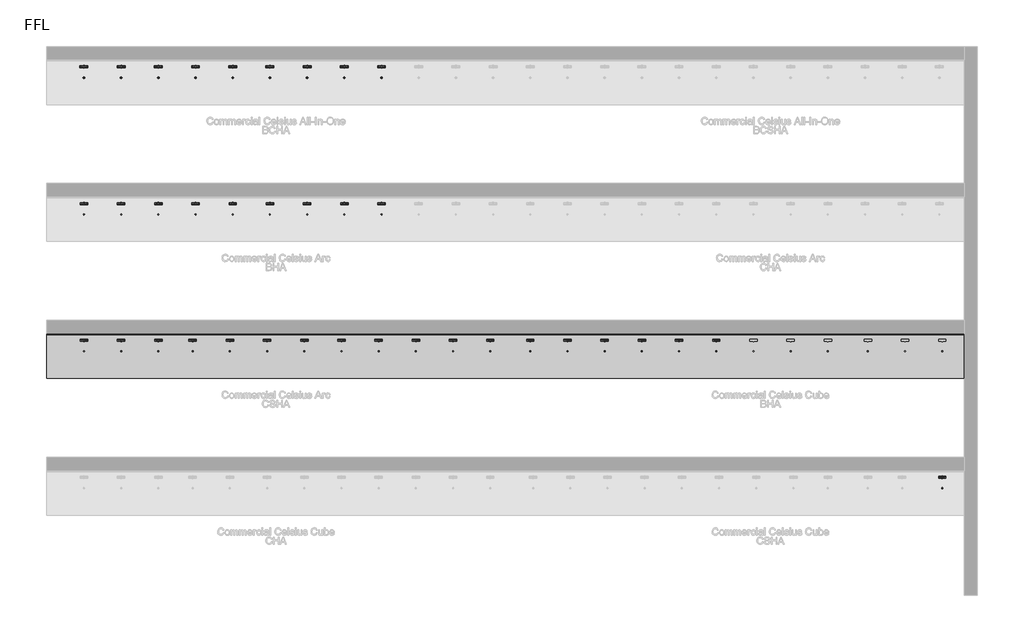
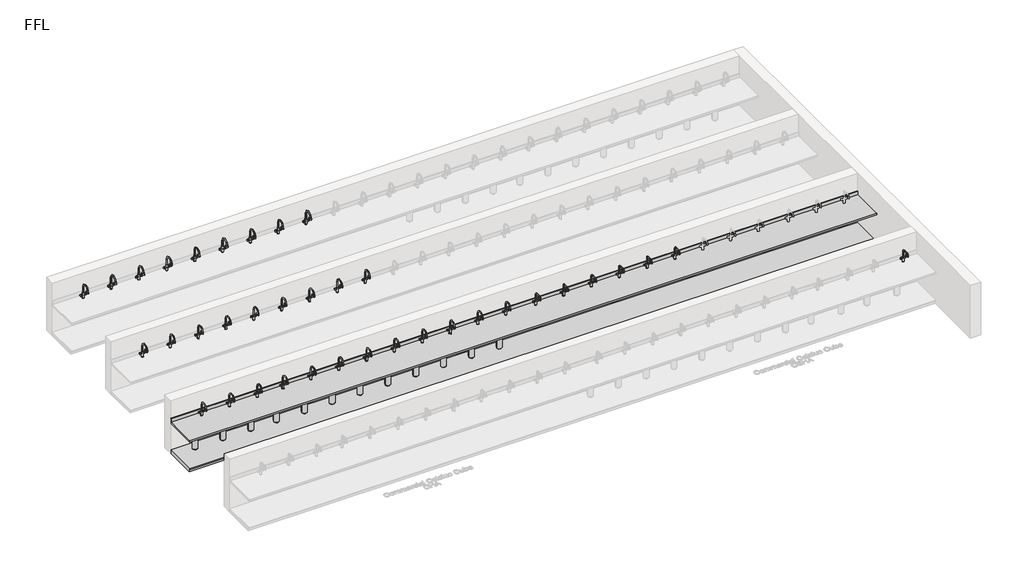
# One storey, part 2 of 10: 65 flow terminals, 2 furniture elements.
"""IFC4 building model written with IfcOpenShell, lengths in millimetres."""

from ifc_helpers import new_model, si_unit, frame, origin, place, context, project, spatial, polyline, circle_curve, transform, mapped, element, save
from ifc_brep_helpers import plane_surface, revolved_surface, advanced_brep
from components import flow_terminal_1fd3c137, bright_chrome_ca6152f3, bright_chrome_d5fbbf34, bright_chrome_d1e259f6, co2_gas_cylinder_20234e14, generic_plinth_900mm_f287d53f

model = new_model("IFC4")

# Units and contexts
model_context = context("Model", 3, world=origin())
ifc_project = project(units=[si_unit("LENGTHUNIT", "METRE", prefix="MILLI")], contexts=[model_context])

# Site, building, storey
site = spatial("IfcSite", under=ifc_project)
building = spatial("IfcBuilding", under=site)
storey = spatial("IfcBuildingStorey", under=building, Name="FFL", Elevation=0.0)

# Flow terminals
placement = place(None, origin())
flow_terminal_shape = flow_terminal_1fd3c137(model_context)
element("IfcFlowTerminal", 1, ObjectType="z_PlumFixt_Zenith_Booster : Booster", at=placement, inside=storey, context=model_context, shape_type="MappedRepresentation", body=[
    mapped(flow_terminal_shape, transform((-1716.7352929, 5140.2393304, 498.0), x_axis=(1.0, 0.0, 0.0), y_axis=(0.0, 1.0, 0.0), z_axis=(0.0, 0.0, 1.0))),
])
element("IfcFlowTerminal", 2, ObjectType="z_PlumFixt_Zenith_Booster : Booster", at=placement, inside=storey, context=model_context, shape_type="MappedRepresentation", body=[
    mapped(flow_terminal_shape, transform((-966.7352929, 5140.2393304, 498.0), x_axis=(1.0, 0.0, 0.0), y_axis=(0.0, 1.0, 0.0), z_axis=(0.0, 0.0, 1.0))),
])
element("IfcFlowTerminal", 3, ObjectType="z_PlumFixt_Zenith_Booster : Booster", at=placement, inside=storey, context=model_context, shape_type="MappedRepresentation", body=[
    mapped(flow_terminal_shape, transform((-216.7352929, 5140.2393304, 498.0), x_axis=(1.0, 0.0, 0.0), y_axis=(0.0, 1.0, 0.0), z_axis=(0.0, 0.0, 1.0))),
])
element("IfcFlowTerminal", 4, ObjectType="z_PlumFixt_Zenith_Booster : Booster", at=placement, inside=storey, context=model_context, shape_type="MappedRepresentation", body=[
    mapped(flow_terminal_shape, transform((-6216.7352929, 2380.2393304, 498.0), x_axis=(1.0, 0.0, 0.0), y_axis=(0.0, 1.0, 0.0), z_axis=(0.0, 0.0, 1.0))),
])
element("IfcFlowTerminal", 5, ObjectType="z_PlumFixt_Zenith_Booster : Booster", at=placement, inside=storey, context=model_context, shape_type="MappedRepresentation", body=[
    mapped(flow_terminal_shape, transform((-5466.7352929, 2380.2393304, 498.0), x_axis=(1.0, 0.0, 0.0), y_axis=(0.0, 1.0, 0.0), z_axis=(0.0, 0.0, 1.0))),
])
element("IfcFlowTerminal", 6, ObjectType="z_PlumFixt_Zenith_Booster : Booster", at=placement, inside=storey, context=model_context, shape_type="MappedRepresentation", body=[
    mapped(flow_terminal_shape, transform((-4716.7352929, 2380.2393304, 498.0), x_axis=(1.0, 0.0, 0.0), y_axis=(0.0, 1.0, 0.0), z_axis=(0.0, 0.0, 1.0))),
])
element("IfcFlowTerminal", 7, ObjectType="z_PlumFixt_Zenith_Booster : Booster", at=placement, inside=storey, context=model_context, shape_type="MappedRepresentation", body=[
    mapped(flow_terminal_shape, transform((-4023.7352929, 2380.2393304, 498.0), x_axis=(1.0, 0.0, 0.0), y_axis=(0.0, 1.0, 0.0), z_axis=(0.0, 0.0, 1.0))),
])
element("IfcFlowTerminal", 8, ObjectType="z_PlumFixt_Zenith_Booster : Booster", at=placement, inside=storey, context=model_context, shape_type="MappedRepresentation", body=[
    mapped(flow_terminal_shape, transform((-3273.7352929, 2380.2393304, 498.0), x_axis=(1.0, 0.0, 0.0), y_axis=(0.0, 1.0, 0.0), z_axis=(0.0, 0.0, 1.0))),
])
element("IfcFlowTerminal", 9, ObjectType="z_PlumFixt_Zenith_Booster : Booster", at=placement, inside=storey, context=model_context, shape_type="MappedRepresentation", body=[
    mapped(flow_terminal_shape, transform((-2523.7352929, 2380.2393304, 498.0), x_axis=(1.0, 0.0, 0.0), y_axis=(0.0, 1.0, 0.0), z_axis=(0.0, 0.0, 1.0))),
])
element("IfcFlowTerminal", 10, ObjectType="z_PlumFixt_Zenith_Booster : Booster", at=placement, inside=storey, context=model_context, shape_type="MappedRepresentation", body=[
    mapped(flow_terminal_shape, transform((-1773.7352929, 2380.2393304, 498.0), x_axis=(1.0, 0.0, 0.0), y_axis=(0.0, 1.0, 0.0), z_axis=(0.0, 0.0, 1.0))),
])
element("IfcFlowTerminal", 11, ObjectType="z_PlumFixt_Zenith_Booster : Booster", at=placement, inside=storey, context=model_context, shape_type="MappedRepresentation", body=[
    mapped(flow_terminal_shape, transform((-1023.7352929, 2380.2393304, 498.0), x_axis=(1.0, 0.0, 0.0), y_axis=(0.0, 1.0, 0.0), z_axis=(0.0, 0.0, 1.0))),
])
element("IfcFlowTerminal", 12, ObjectType="z_PlumFixt_Zenith_Booster : Booster", at=placement, inside=storey, context=model_context, shape_type="MappedRepresentation", body=[
    mapped(flow_terminal_shape, transform((-273.7352929, 2380.2393304, 498.0), x_axis=(1.0, 0.0, 0.0), y_axis=(0.0, 1.0, 0.0), z_axis=(0.0, 0.0, 1.0))),
])
element("IfcFlowTerminal", 13, ObjectType="z_PlumFixt_Zenith_Booster : Booster", at=placement, inside=storey, context=model_context, shape_type="MappedRepresentation", body=[
    mapped(flow_terminal_shape, transform((476.2647071, 2380.2393304, 498.0), x_axis=(1.0, 0.0, 0.0), y_axis=(0.0, 1.0, 0.0), z_axis=(0.0, 0.0, 1.0))),
])
element("IfcFlowTerminal", 14, ObjectType="z_PlumFixt_Zenith_Booster : Booster", at=placement, inside=storey, context=model_context, shape_type="MappedRepresentation", body=[
    mapped(flow_terminal_shape, transform((1226.2647071, 2380.2393304, 498.0), x_axis=(1.0, 0.0, 0.0), y_axis=(0.0, 1.0, 0.0), z_axis=(0.0, 0.0, 1.0))),
])
element("IfcFlowTerminal", 15, ObjectType="z_PlumFixt_Zenith_Booster : Booster", at=placement, inside=storey, context=model_context, shape_type="MappedRepresentation", body=[
    mapped(flow_terminal_shape, transform((1976.2647071, 2380.2393304, 498.0), x_axis=(1.0, 0.0, 0.0), y_axis=(0.0, 1.0, 0.0), z_axis=(0.0, 0.0, 1.0))),
])
element("IfcFlowTerminal", 16, ObjectType="z_PlumFixt_Zenith_Booster : Booster", at=placement, inside=storey, context=model_context, shape_type="MappedRepresentation", body=[
    mapped(flow_terminal_shape, transform((7282.2647071, 2380.2393304, 498.0), x_axis=(1.0, 0.0, 0.0), y_axis=(0.0, 1.0, 0.0), z_axis=(0.0, 0.0, 1.0))),
])
bright_chrome_shape = bright_chrome_ca6152f3(model_context)
element("IfcFlowTerminal", 17, ObjectType="z_PlumFixt_Zenith_Celsius Arc : Bright Chrome", at=placement, inside=storey, context=model_context, shape_type="MappedRepresentation", body=[
    mapped(bright_chrome_shape, transform((-6216.7352929, 4864.4893304, 900.0), x_axis=(1.0, 0.0, 0.0), y_axis=(0.0, 1.0, 0.0), z_axis=(0.0, 0.0, 1.0))),
])
element("IfcFlowTerminal", 18, ObjectType="z_PlumFixt_Zenith_Celsius Arc : Bright Chrome", at=placement, inside=storey, context=model_context, shape_type="MappedRepresentation", body=[
    mapped(bright_chrome_shape, transform((-6216.7352929, 2104.4893304, 900.0), x_axis=(1.0, 0.0, 0.0), y_axis=(0.0, 1.0, 0.0), z_axis=(0.0, 0.0, 1.0))),
])
bright_chrome_2_shape = bright_chrome_d5fbbf34(model_context)
element("IfcFlowTerminal", 19, ObjectType="z_PlumFixt_Zenith_Celsius Cube : Bright Chrome", at=placement, inside=storey, context=model_context, shape_type="MappedRepresentation", body=[
    mapped(bright_chrome_2_shape, transform((2782.7647071, 2104.4893304, 900.0), x_axis=(1.0, 0.0, 0.0), y_axis=(0.0, 1.0, 0.0), z_axis=(0.0, 0.0, 1.0))),
])
element("IfcFlowTerminal", 20, ObjectType="z_PlumFixt_Zenith_Celsius Cube : Bright Chrome", at=placement, inside=storey, context=model_context, shape_type="MappedRepresentation", body=[
    mapped(bright_chrome_2_shape, transform((11089.2647071, -655.5106696, 900.0), x_axis=(1.0, 0.0, 0.0), y_axis=(0.0, 1.0, 0.0), z_axis=(0.0, 0.0, 1.0))),
])
bright_chrome_3_shape = bright_chrome_d1e259f6(model_context)
element("IfcFlowTerminal", 21, ObjectType="z_PlumFixt_Zenith_Celsius All-In-One : Bright Chrome", at=placement, inside=storey, context=model_context, shape_type="MappedRepresentation", body=[
    mapped(bright_chrome_3_shape, transform((-6216.7352929, 7637.5393304, 900.0), x_axis=(1.0, 0.0, 0.0), y_axis=(0.0, 1.0, 0.0), z_axis=(0.0, 0.0, 1.0))),
])
element("IfcFlowTerminal", 22, ObjectType="z_PlumFixt_Zenith_Celsius Arc : Brushed Chrome", at=placement, inside=storey, context=model_context, shape_type="MappedRepresentation", body=[
    mapped(bright_chrome_shape, transform((-5466.7352929, 4864.4893304, 900.0), x_axis=(1.0, 0.0, 0.0), y_axis=(0.0, 1.0, 0.0), z_axis=(0.0, 0.0, 1.0))),
])
element("IfcFlowTerminal", 23, ObjectType="z_PlumFixt_Zenith_Celsius Arc : Brushed Chrome", at=placement, inside=storey, context=model_context, shape_type="MappedRepresentation", body=[
    mapped(bright_chrome_shape, transform((-5466.7352929, 2104.4893304, 900.0), x_axis=(1.0, 0.0, 0.0), y_axis=(0.0, 1.0, 0.0), z_axis=(0.0, 0.0, 1.0))),
])
element("IfcFlowTerminal", 24, ObjectType="z_PlumFixt_Zenith_Celsius Cube : Brushed Chrome", at=placement, inside=storey, context=model_context, shape_type="MappedRepresentation", body=[
    mapped(bright_chrome_2_shape, transform((3532.7647071, 2104.4893304, 900.0), x_axis=(1.0, 0.0, 0.0), y_axis=(0.0, 1.0, 0.0), z_axis=(0.0, 0.0, 1.0))),
])
element("IfcFlowTerminal", 25, ObjectType="z_PlumFixt_Zenith_Celsius All-In-One : Brushed Chrome", at=placement, inside=storey, context=model_context, shape_type="MappedRepresentation", body=[
    mapped(bright_chrome_3_shape, transform((-5466.7352929, 7637.5393304, 900.0), x_axis=(1.0, 0.0, 0.0), y_axis=(0.0, 1.0, 0.0), z_axis=(0.0, 0.0, 1.0))),
])
element("IfcFlowTerminal", 26, ObjectType="z_PlumFixt_Zenith_Celsius Arc : Brushed Gold", at=placement, inside=storey, context=model_context, shape_type="MappedRepresentation", body=[
    mapped(bright_chrome_shape, transform((-4716.7352929, 4864.4893304, 900.0), x_axis=(1.0, 0.0, 0.0), y_axis=(0.0, 1.0, 0.0), z_axis=(0.0, 0.0, 1.0))),
])
element("IfcFlowTerminal", 27, ObjectType="z_PlumFixt_Zenith_Celsius Arc : Brushed Gold", at=placement, inside=storey, context=model_context, shape_type="MappedRepresentation", body=[
    mapped(bright_chrome_shape, transform((-4716.7352929, 2104.4893304, 900.0), x_axis=(1.0, 0.0, 0.0), y_axis=(0.0, 1.0, 0.0), z_axis=(0.0, 0.0, 1.0))),
])
element("IfcFlowTerminal", 28, ObjectType="z_PlumFixt_Zenith_Celsius Cube : Brushed Gold", at=placement, inside=storey, context=model_context, shape_type="MappedRepresentation", body=[
    mapped(bright_chrome_2_shape, transform((4282.7647071, 2104.4893304, 900.0), x_axis=(1.0, 0.0, 0.0), y_axis=(0.0, 1.0, 0.0), z_axis=(0.0, 0.0, 1.0))),
])
element("IfcFlowTerminal", 29, ObjectType="z_PlumFixt_Zenith_Celsius All-In-One : Brushed Gold", at=placement, inside=storey, context=model_context, shape_type="MappedRepresentation", body=[
    mapped(bright_chrome_3_shape, transform((-4716.7352929, 7637.5393304, 900.0), x_axis=(1.0, 0.0, 0.0), y_axis=(0.0, 1.0, 0.0), z_axis=(0.0, 0.0, 1.0))),
])
element("IfcFlowTerminal", 30, ObjectType="z_PlumFixt_Zenith_Celsius Arc : Brushed Nickel", at=placement, inside=storey, context=model_context, shape_type="MappedRepresentation", body=[
    mapped(bright_chrome_shape, transform((-3966.7352929, 4864.4893304, 900.0), x_axis=(1.0, 0.0, 0.0), y_axis=(0.0, 1.0, 0.0), z_axis=(0.0, 0.0, 1.0))),
])
element("IfcFlowTerminal", 31, ObjectType="z_PlumFixt_Zenith_Celsius Arc : Brushed Nickel", at=placement, inside=storey, context=model_context, shape_type="MappedRepresentation", body=[
    mapped(bright_chrome_shape, transform((-4023.7352929, 2104.4893304, 900.0), x_axis=(1.0, 0.0, 0.0), y_axis=(0.0, 1.0, 0.0), z_axis=(0.0, 0.0, 1.0))),
])
element("IfcFlowTerminal", 32, ObjectType="z_PlumFixt_Zenith_Celsius Cube : Brushed Nickel", at=placement, inside=storey, context=model_context, shape_type="MappedRepresentation", body=[
    mapped(bright_chrome_2_shape, transform((5032.7647071, 2104.4893304, 900.0), x_axis=(1.0, 0.0, 0.0), y_axis=(0.0, 1.0, 0.0), z_axis=(0.0, 0.0, 1.0))),
])
element("IfcFlowTerminal", 33, ObjectType="z_PlumFixt_Zenith_Celsius All-In-One : Brushed Nickel", at=placement, inside=storey, context=model_context, shape_type="MappedRepresentation", body=[
    mapped(bright_chrome_3_shape, transform((-3966.7352929, 7637.5393304, 900.0), x_axis=(1.0, 0.0, 0.0), y_axis=(0.0, 1.0, 0.0), z_axis=(0.0, 0.0, 1.0))),
])
element("IfcFlowTerminal", 34, ObjectType="z_PlumFixt_Zenith_Celsius Arc : Brushed Rose Gold", at=placement, inside=storey, context=model_context, shape_type="MappedRepresentation", body=[
    mapped(bright_chrome_shape, transform((-3216.7352929, 4864.4893304, 900.0), x_axis=(1.0, 0.0, 0.0), y_axis=(0.0, 1.0, 0.0), z_axis=(0.0, 0.0, 1.0))),
])
element("IfcFlowTerminal", 35, ObjectType="z_PlumFixt_Zenith_Celsius Arc : Brushed Rose Gold", at=placement, inside=storey, context=model_context, shape_type="MappedRepresentation", body=[
    mapped(bright_chrome_shape, transform((-3273.7352929, 2104.4893304, 900.0), x_axis=(1.0, 0.0, 0.0), y_axis=(0.0, 1.0, 0.0), z_axis=(0.0, 0.0, 1.0))),
])
element("IfcFlowTerminal", 36, ObjectType="z_PlumFixt_Zenith_Celsius Cube : Brushed Rose Gold", at=placement, inside=storey, context=model_context, shape_type="MappedRepresentation", body=[
    mapped(bright_chrome_2_shape, transform((5782.2647071, 2104.4893304, 900.0), x_axis=(1.0, 0.0, 0.0), y_axis=(0.0, 1.0, 0.0), z_axis=(0.0, 0.0, 1.0))),
])
element("IfcFlowTerminal", 37, ObjectType="z_PlumFixt_Zenith_Celsius All-In-One : Brushed Rose Gold", at=placement, inside=storey, context=model_context, shape_type="MappedRepresentation", body=[
    mapped(bright_chrome_3_shape, transform((-3216.7352929, 7637.5393304, 900.0), x_axis=(1.0, 0.0, 0.0), y_axis=(0.0, 1.0, 0.0), z_axis=(0.0, 0.0, 1.0))),
])
co2_gas_cylinder_shape = co2_gas_cylinder_20234e14(model_context)
element("IfcFlowTerminal", 38, ObjectType="z_PlumFixt_Zenith_CO2 Gas Cylinder : CO2 Gas Cylinder", at=placement, inside=storey, context=model_context, shape_type="MappedRepresentation", body=[
    mapped(co2_gas_cylinder_shape, transform((-6454.7352929, 1998.2393304, 100.0), x_axis=(-1.0, 0.0, 0.0), y_axis=(0.0, -1.0, 0.0), z_axis=(0.0, 0.0, 1.0))),
])
element("IfcFlowTerminal", 39, ObjectType="z_PlumFixt_Zenith_CO2 Gas Cylinder : CO2 Gas Cylinder", at=placement, inside=storey, context=model_context, shape_type="MappedRepresentation", body=[
    mapped(co2_gas_cylinder_shape, transform((-5704.7352929, 1998.2393304, 100.0), x_axis=(-1.0, 0.0, 0.0), y_axis=(0.0, -1.0, 0.0), z_axis=(0.0, 0.0, 1.0))),
])
element("IfcFlowTerminal", 40, ObjectType="z_PlumFixt_Zenith_CO2 Gas Cylinder : CO2 Gas Cylinder", at=placement, inside=storey, context=model_context, shape_type="MappedRepresentation", body=[
    mapped(co2_gas_cylinder_shape, transform((-4954.7352929, 1998.2393304, 100.0), x_axis=(-1.0, 0.0, 0.0), y_axis=(0.0, -1.0, 0.0), z_axis=(0.0, 0.0, 1.0))),
])
element("IfcFlowTerminal", 41, ObjectType="z_PlumFixt_Zenith_CO2 Gas Cylinder : CO2 Gas Cylinder", at=placement, inside=storey, context=model_context, shape_type="MappedRepresentation", body=[
    mapped(co2_gas_cylinder_shape, transform((-4261.7352929, 1998.2393304, 100.0), x_axis=(-1.0, 0.0, 0.0), y_axis=(0.0, -1.0, 0.0), z_axis=(0.0, 0.0, 1.0))),
])
element("IfcFlowTerminal", 42, ObjectType="z_PlumFixt_Zenith_CO2 Gas Cylinder : CO2 Gas Cylinder", at=placement, inside=storey, context=model_context, shape_type="MappedRepresentation", body=[
    mapped(co2_gas_cylinder_shape, transform((-3511.7352929, 1998.2393304, 100.0), x_axis=(-1.0, 0.0, 0.0), y_axis=(0.0, -1.0, 0.0), z_axis=(0.0, 0.0, 1.0))),
])
element("IfcFlowTerminal", 43, ObjectType="z_PlumFixt_Zenith_CO2 Gas Cylinder : CO2 Gas Cylinder", at=placement, inside=storey, context=model_context, shape_type="MappedRepresentation", body=[
    mapped(co2_gas_cylinder_shape, transform((-2761.7352929, 1998.2393304, 100.0), x_axis=(-1.0, 0.0, 0.0), y_axis=(0.0, -1.0, 0.0), z_axis=(0.0, 0.0, 1.0))),
])
element("IfcFlowTerminal", 44, ObjectType="z_PlumFixt_Zenith_CO2 Gas Cylinder : CO2 Gas Cylinder", at=placement, inside=storey, context=model_context, shape_type="MappedRepresentation", body=[
    mapped(co2_gas_cylinder_shape, transform((-2011.7352929, 1998.2393304, 100.0), x_axis=(-1.0, 0.0, 0.0), y_axis=(0.0, -1.0, 0.0), z_axis=(0.0, 0.0, 1.0))),
])
element("IfcFlowTerminal", 45, ObjectType="z_PlumFixt_Zenith_CO2 Gas Cylinder : CO2 Gas Cylinder", at=placement, inside=storey, context=model_context, shape_type="MappedRepresentation", body=[
    mapped(co2_gas_cylinder_shape, transform((-1261.7352929, 1998.2393304, 100.0), x_axis=(-1.0, 0.0, 0.0), y_axis=(0.0, -1.0, 0.0), z_axis=(0.0, 0.0, 1.0))),
])
element("IfcFlowTerminal", 46, ObjectType="z_PlumFixt_Zenith_CO2 Gas Cylinder : CO2 Gas Cylinder", at=placement, inside=storey, context=model_context, shape_type="MappedRepresentation", body=[
    mapped(co2_gas_cylinder_shape, transform((-511.7352929, 1998.2393304, 100.0), x_axis=(-1.0, 0.0, 0.0), y_axis=(0.0, -1.0, 0.0), z_axis=(0.0, 0.0, 1.0))),
])
element("IfcFlowTerminal", 47, ObjectType="z_PlumFixt_Zenith_CO2 Gas Cylinder : CO2 Gas Cylinder", at=placement, inside=storey, context=model_context, shape_type="MappedRepresentation", body=[
    mapped(co2_gas_cylinder_shape, transform((238.2647071, 1998.2393304, 100.0), x_axis=(-1.0, 0.0, 0.0), y_axis=(0.0, -1.0, 0.0), z_axis=(0.0, 0.0, 1.0))),
])
element("IfcFlowTerminal", 48, ObjectType="z_PlumFixt_Zenith_CO2 Gas Cylinder : CO2 Gas Cylinder", at=placement, inside=storey, context=model_context, shape_type="MappedRepresentation", body=[
    mapped(co2_gas_cylinder_shape, transform((988.2647071, 1998.2393304, 100.0), x_axis=(-1.0, 0.0, 0.0), y_axis=(0.0, -1.0, 0.0), z_axis=(0.0, 0.0, 1.0))),
])
element("IfcFlowTerminal", 49, ObjectType="z_PlumFixt_Zenith_CO2 Gas Cylinder : CO2 Gas Cylinder", at=placement, inside=storey, context=model_context, shape_type="MappedRepresentation", body=[
    mapped(co2_gas_cylinder_shape, transform((1738.2647071, 1998.2393304, 100.0), x_axis=(-1.0, 0.0, 0.0), y_axis=(0.0, -1.0, 0.0), z_axis=(0.0, 0.0, 1.0))),
])
element("IfcFlowTerminal", 50, ObjectType="z_PlumFixt_Zenith_Celsius Arc : Gloss Black", at=placement, inside=storey, context=model_context, shape_type="MappedRepresentation", body=[
    mapped(bright_chrome_shape, transform((-2466.7352929, 4864.4893304, 900.0), x_axis=(1.0, 0.0, 0.0), y_axis=(0.0, 1.0, 0.0), z_axis=(0.0, 0.0, 1.0))),
])
element("IfcFlowTerminal", 51, ObjectType="z_PlumFixt_Zenith_Celsius Arc : Gloss Black", at=placement, inside=storey, context=model_context, shape_type="MappedRepresentation", body=[
    mapped(bright_chrome_shape, transform((-2523.7352929, 2104.4893304, 900.0), x_axis=(1.0, 0.0, 0.0), y_axis=(0.0, 1.0, 0.0), z_axis=(0.0, 0.0, 1.0))),
])
element("IfcFlowTerminal", 52, ObjectType="z_PlumFixt_Zenith_Celsius Cube : Gloss Black", at=placement, inside=storey, context=model_context, shape_type="MappedRepresentation", body=[
    mapped(bright_chrome_2_shape, transform((6532.2647071, 2104.4893304, 900.0), x_axis=(1.0, 0.0, 0.0), y_axis=(0.0, 1.0, 0.0), z_axis=(0.0, 0.0, 1.0))),
])
element("IfcFlowTerminal", 53, ObjectType="z_PlumFixt_Zenith_Celsius All-In-One : Gloss Black", at=placement, inside=storey, context=model_context, shape_type="MappedRepresentation", body=[
    mapped(bright_chrome_3_shape, transform((-2466.7352929, 7637.5393304, 900.0), x_axis=(1.0, 0.0, 0.0), y_axis=(0.0, 1.0, 0.0), z_axis=(0.0, 0.0, 1.0))),
])
element("IfcFlowTerminal", 54, ObjectType="z_PlumFixt_Zenith_Celsius Arc : Gold", at=placement, inside=storey, context=model_context, shape_type="MappedRepresentation", body=[
    mapped(bright_chrome_shape, transform((-1716.7352929, 4864.4893304, 900.0), x_axis=(1.0, 0.0, 0.0), y_axis=(0.0, 1.0, 0.0), z_axis=(0.0, 0.0, 1.0))),
])
element("IfcFlowTerminal", 55, ObjectType="z_PlumFixt_Zenith_Celsius Arc : Gold", at=placement, inside=storey, context=model_context, shape_type="MappedRepresentation", body=[
    mapped(bright_chrome_shape, transform((-1773.7352929, 2104.4893304, 900.0), x_axis=(1.0, 0.0, 0.0), y_axis=(0.0, 1.0, 0.0), z_axis=(0.0, 0.0, 1.0))),
])
element("IfcFlowTerminal", 56, ObjectType="z_PlumFixt_Zenith_Celsius All-In-One : Gold", at=placement, inside=storey, context=model_context, shape_type="MappedRepresentation", body=[
    mapped(bright_chrome_3_shape, transform((-1716.7352929, 7637.5393304, 900.0), x_axis=(1.0, 0.0, 0.0), y_axis=(0.0, 1.0, 0.0), z_axis=(0.0, 0.0, 1.0))),
])
element("IfcFlowTerminal", 57, ObjectType="z_PlumFixt_Zenith_Celsius Arc : Gunmetal", at=placement, inside=storey, context=model_context, shape_type="MappedRepresentation", body=[
    mapped(bright_chrome_shape, transform((-966.7352929, 4864.4893304, 900.0), x_axis=(1.0, 0.0, 0.0), y_axis=(0.0, 1.0, 0.0), z_axis=(0.0, 0.0, 1.0))),
])
element("IfcFlowTerminal", 58, ObjectType="z_PlumFixt_Zenith_Celsius Arc : Gunmetal", at=placement, inside=storey, context=model_context, shape_type="MappedRepresentation", body=[
    mapped(bright_chrome_shape, transform((-1023.7352929, 2104.4893304, 900.0), x_axis=(1.0, 0.0, 0.0), y_axis=(0.0, 1.0, 0.0), z_axis=(0.0, 0.0, 1.0))),
])
element("IfcFlowTerminal", 59, ObjectType="z_PlumFixt_Zenith_Celsius All-In-One : Gunmetal", at=placement, inside=storey, context=model_context, shape_type="MappedRepresentation", body=[
    mapped(bright_chrome_3_shape, transform((-966.7352929, 7637.5393304, 900.0), x_axis=(1.0, 0.0, 0.0), y_axis=(0.0, 1.0, 0.0), z_axis=(0.0, 0.0, 1.0))),
])
element("IfcFlowTerminal", 60, ObjectType="z_PlumFixt_Zenith_Celsius Arc : Matte Black", at=placement, inside=storey, context=model_context, shape_type="MappedRepresentation", body=[
    mapped(bright_chrome_shape, transform((-216.7352929, 4864.4893304, 900.0), x_axis=(1.0, 0.0, 0.0), y_axis=(0.0, 1.0, 0.0), z_axis=(0.0, 0.0, 1.0))),
])
element("IfcFlowTerminal", 61, ObjectType="z_PlumFixt_Zenith_Celsius Arc : Matte Black", at=placement, inside=storey, context=model_context, shape_type="MappedRepresentation", body=[
    mapped(bright_chrome_shape, transform((-273.7352929, 2104.4893304, 900.0), x_axis=(1.0, 0.0, 0.0), y_axis=(0.0, 1.0, 0.0), z_axis=(0.0, 0.0, 1.0))),
])
element("IfcFlowTerminal", 62, ObjectType="z_PlumFixt_Zenith_Celsius All-In-One : Matte Black", at=placement, inside=storey, context=model_context, shape_type="MappedRepresentation", body=[
    mapped(bright_chrome_3_shape, transform((-216.7352929, 7637.5393304, 900.0), x_axis=(1.0, 0.0, 0.0), y_axis=(0.0, 1.0, 0.0), z_axis=(0.0, 0.0, 1.0))),
])
element("IfcFlowTerminal", 63, ObjectType="z_PlumFixt_Zenith_Celsius Arc : Nickel", at=placement, inside=storey, context=model_context, shape_type="MappedRepresentation", body=[
    mapped(bright_chrome_shape, transform((476.2647071, 2104.4893304, 900.0), x_axis=(1.0, 0.0, 0.0), y_axis=(0.0, 1.0, 0.0), z_axis=(0.0, 0.0, 1.0))),
])
element("IfcFlowTerminal", 64, ObjectType="z_PlumFixt_Zenith_Celsius Arc : Platinum", at=placement, inside=storey, context=model_context, shape_type="MappedRepresentation", body=[
    mapped(bright_chrome_shape, transform((1226.2647071, 2104.4893304, 900.0), x_axis=(1.0, 0.0, 0.0), y_axis=(0.0, 1.0, 0.0), z_axis=(0.0, 0.0, 1.0))),
])
element("IfcFlowTerminal", 65, ObjectType="z_PlumFixt_Zenith_Celsius Arc : Rose Gold", at=placement, inside=storey, context=model_context, shape_type="MappedRepresentation", body=[
    mapped(bright_chrome_shape, transform((1976.2647071, 2104.4893304, 900.0), x_axis=(1.0, 0.0, 0.0), y_axis=(0.0, 1.0, 0.0), z_axis=(0.0, 0.0, 1.0))),
])

# Furniture
element("IfcFurniture", 66, ObjectType="Counter Top : 900mm Depth", at=placement, inside=storey, context=model_context, shape_type="AdvancedBrep", body=[
    advanced_brep(
    [(-6969.7352929, 1428.2393304, 900.0), (11530.2647071, 1428.2393304, 900.0), (11530.2647071, 2309.1893304, 900.0), (-6969.7352929, 2309.1893304, 900.0), (-6240.2352929, 2193.2393304, 900.0), (-6191.2352929, 2193.2393304, 900.0), (-5490.2352929, 2193.2393304, 900.0), (-5441.2352929, 2193.2393304, 900.0), (-4740.2352929, 2193.2393304, 900.0), (-4691.2352929, 2193.2393304, 900.0), (-4047.2352929, 2193.2393304, 900.0), (-3998.2352929, 2193.2393304, 900.0), (-3297.2352929, 2193.2393304, 900.0), (-3248.2352929, 2193.2393304, 900.0), (-2547.2352929, 2193.2393304, 900.0), (-2498.2352929, 2193.2393304, 900.0), (-1797.2352929, 2193.2393304, 900.0), (-1748.2352929, 2193.2393304, 900.0), (-1047.2352929, 2193.2393304, 900.0), (-998.2352929, 2193.2393304, 900.0), (-297.2352929, 2193.2393304, 900.0), (-248.2352929, 2193.2393304, 900.0), (452.7647071, 2193.2393304, 900.0), (501.7647071, 2193.2393304, 900.0), (1202.7647071, 2193.2393304, 900.0), (1251.7647071, 2193.2393304, 900.0), (1952.7647071, 2193.2393304, 900.0), (2001.7647071, 2193.2393304, 900.0), (11065.7647071, 2193.2393304, 900.0), (11114.7647071, 2193.2393304, 900.0), (10315.7647071, 2193.2393304, 900.0), (10364.7647071, 2193.2393304, 900.0), (9565.7647071, 2193.2393304, 900.0), (9614.7647071, 2193.2393304, 900.0), (8758.7647071, 2193.2393304, 900.0), (8807.7647071, 2193.2393304, 900.0), (8008.7647071, 2193.2393304, 900.0), (8057.7647071, 2193.2393304, 900.0), (7258.7647071, 2193.2393304, 900.0), (7307.7647071, 2193.2393304, 900.0), (6508.7647071, 2193.2393304, 900.0), (6557.7647071, 2193.2393304, 900.0), (5758.7647071, 2193.2393304, 900.0), (5807.7647071, 2193.2393304, 900.0), (5009.2647071, 2193.2393304, 900.0), (5058.2647071, 2193.2393304, 900.0), (4259.2647071, 2193.2393304, 900.0), (4308.2647071, 2193.2393304, 900.0), (3509.2647071, 2193.2393304, 900.0), (3558.2647071, 2193.2393304, 900.0), (2759.2647071, 2193.2393304, 900.0), (2808.2647071, 2193.2393304, 900.0), (11530.2647071, 2328.2393304, 860.0), (11530.2647071, 1428.2393304, 860.0), (-6969.7352929, 1428.2393304, 860.0), (-6969.7352929, 2328.2393304, 860.0), (-6191.2352929, 2193.2393304, 860.0), (-6240.2352929, 2193.2393304, 860.0), (-5441.2352929, 2193.2393304, 860.0), (-5490.2352929, 2193.2393304, 860.0), (-4691.2352929, 2193.2393304, 860.0), (-4740.2352929, 2193.2393304, 860.0), (-3998.2352929, 2193.2393304, 860.0), (-4047.2352929, 2193.2393304, 860.0), (-3248.2352929, 2193.2393304, 860.0), (-3297.2352929, 2193.2393304, 860.0), (-2498.2352929, 2193.2393304, 860.0), (-2547.2352929, 2193.2393304, 860.0), (-1748.2352929, 2193.2393304, 860.0), (-1797.2352929, 2193.2393304, 860.0), (-998.2352929, 2193.2393304, 860.0), (-1047.2352929, 2193.2393304, 860.0), (-248.2352929, 2193.2393304, 860.0), (-297.2352929, 2193.2393304, 860.0), (501.7647071, 2193.2393304, 860.0), (452.7647071, 2193.2393304, 860.0), (1251.7647071, 2193.2393304, 860.0), (1202.7647071, 2193.2393304, 860.0), (2001.7647071, 2193.2393304, 860.0), (1952.7647071, 2193.2393304, 860.0), (11114.7647071, 2193.2393304, 860.0), (11065.7647071, 2193.2393304, 860.0), (10364.7647071, 2193.2393304, 860.0), (10315.7647071, 2193.2393304, 860.0), (9614.7647071, 2193.2393304, 860.0), (9565.7647071, 2193.2393304, 860.0), (8807.7647071, 2193.2393304, 860.0), (8758.7647071, 2193.2393304, 860.0), (8057.7647071, 2193.2393304, 860.0), (8008.7647071, 2193.2393304, 860.0), (7307.7647071, 2193.2393304, 860.0), (7258.7647071, 2193.2393304, 860.0), (6557.7647071, 2193.2393304, 860.0), (6508.7647071, 2193.2393304, 860.0), (5807.7647071, 2193.2393304, 860.0), (5758.7647071, 2193.2393304, 860.0), (5058.2647071, 2193.2393304, 860.0), (5009.2647071, 2193.2393304, 860.0), (4308.2647071, 2193.2393304, 860.0), (4259.2647071, 2193.2393304, 860.0), (3558.2647071, 2193.2393304, 860.0), (3509.2647071, 2193.2393304, 860.0), (2808.2647071, 2193.2393304, 860.0), (2759.2647071, 2193.2393304, 860.0), (-6969.7352929, 2328.2393304, 1001.6), (11530.2647071, 2328.2393304, 1001.6), (-6969.7352929, 2309.1893304, 1001.6), (11530.2647071, 2309.1893304, 1001.6)],
    [
        (0, 1),
        (1, 2),
        (2, 3),
        (3, 0),
        (4, 5, circle_curve(frame((-6215.7352929, 2193.2393304, 900.0), z_axis=(0.0, 0.0, -1.0), x_axis=(-1.0, 0.0, 0.0)), 24.5)),
        (5, 4, circle_curve(frame((-6215.7352929, 2193.2393304, 900.0), z_axis=(0.0, 0.0, -1.0), x_axis=(-1.0, 0.0, 0.0)), 24.5)),
        (6, 7, circle_curve(frame((-5465.7352929, 2193.2393304, 900.0), z_axis=(0.0, 0.0, -1.0), x_axis=(-1.0, 0.0, 0.0)), 24.5)),
        (7, 6, circle_curve(frame((-5465.7352929, 2193.2393304, 900.0), z_axis=(0.0, 0.0, -1.0), x_axis=(-1.0, 0.0, 0.0)), 24.5)),
        (8, 9, circle_curve(frame((-4715.7352929, 2193.2393304, 900.0), z_axis=(0.0, 0.0, -1.0), x_axis=(-1.0, 0.0, 0.0)), 24.5)),
        (9, 8, circle_curve(frame((-4715.7352929, 2193.2393304, 900.0), z_axis=(0.0, 0.0, -1.0), x_axis=(-1.0, 0.0, 0.0)), 24.5)),
        (10, 11, circle_curve(frame((-4022.7352929, 2193.2393304, 900.0), z_axis=(0.0, 0.0, -1.0), x_axis=(-1.0, 0.0, 0.0)), 24.5)),
        (11, 10, circle_curve(frame((-4022.7352929, 2193.2393304, 900.0), z_axis=(0.0, 0.0, -1.0), x_axis=(-1.0, 0.0, 0.0)), 24.5)),
        (12, 13, circle_curve(frame((-3272.7352929, 2193.2393304, 900.0), z_axis=(0.0, 0.0, -1.0), x_axis=(-1.0, 0.0, 0.0)), 24.5)),
        (13, 12, circle_curve(frame((-3272.7352929, 2193.2393304, 900.0), z_axis=(0.0, 0.0, -1.0), x_axis=(-1.0, 0.0, 0.0)), 24.5)),
        (14, 15, circle_curve(frame((-2522.7352929, 2193.2393304, 900.0), z_axis=(0.0, 0.0, -1.0), x_axis=(-1.0, 0.0, 0.0)), 24.5)),
        (15, 14, circle_curve(frame((-2522.7352929, 2193.2393304, 900.0), z_axis=(0.0, 0.0, -1.0), x_axis=(-1.0, 0.0, 0.0)), 24.5)),
        (16, 17, circle_curve(frame((-1772.7352929, 2193.2393304, 900.0), z_axis=(0.0, 0.0, -1.0), x_axis=(-1.0, 0.0, 0.0)), 24.5)),
        (17, 16, circle_curve(frame((-1772.7352929, 2193.2393304, 900.0), z_axis=(0.0, 0.0, -1.0), x_axis=(-1.0, 0.0, 0.0)), 24.5)),
        (18, 19, circle_curve(frame((-1022.7352929, 2193.2393304, 900.0), z_axis=(0.0, 0.0, -1.0), x_axis=(-1.0, 0.0, 0.0)), 24.5)),
        (19, 18, circle_curve(frame((-1022.7352929, 2193.2393304, 900.0), z_axis=(0.0, 0.0, -1.0), x_axis=(-1.0, 0.0, 0.0)), 24.5)),
        (20, 21, circle_curve(frame((-272.7352929, 2193.2393304, 900.0), z_axis=(0.0, 0.0, -1.0), x_axis=(-1.0, 0.0, 0.0)), 24.5)),
        (21, 20, circle_curve(frame((-272.7352929, 2193.2393304, 900.0), z_axis=(0.0, 0.0, -1.0), x_axis=(-1.0, 0.0, 0.0)), 24.5)),
        (22, 23, circle_curve(frame((477.2647071, 2193.2393304, 900.0), z_axis=(0.0, 0.0, -1.0), x_axis=(-1.0, 0.0, 0.0)), 24.5)),
        (23, 22, circle_curve(frame((477.2647071, 2193.2393304, 900.0), z_axis=(0.0, 0.0, -1.0), x_axis=(-1.0, 0.0, 0.0)), 24.5)),
        (24, 25, circle_curve(frame((1227.2647071, 2193.2393304, 900.0), z_axis=(0.0, 0.0, -1.0), x_axis=(-1.0, 0.0, 0.0)), 24.5)),
        (25, 24, circle_curve(frame((1227.2647071, 2193.2393304, 900.0), z_axis=(0.0, 0.0, -1.0), x_axis=(-1.0, 0.0, 0.0)), 24.5)),
        (26, 27, circle_curve(frame((1977.2647071, 2193.2393304, 900.0), z_axis=(0.0, 0.0, -1.0), x_axis=(-1.0, 0.0, 0.0)), 24.5)),
        (27, 26, circle_curve(frame((1977.2647071, 2193.2393304, 900.0), z_axis=(0.0, 0.0, -1.0), x_axis=(-1.0, 0.0, 0.0)), 24.5)),
        (28, 29, circle_curve(frame((11090.2647071, 2193.2393304, 900.0), z_axis=(0.0, 0.0, -1.0), x_axis=(-1.0, 0.0, 0.0)), 24.5)),
        (29, 28, circle_curve(frame((11090.2647071, 2193.2393304, 900.0), z_axis=(0.0, 0.0, -1.0), x_axis=(-1.0, 0.0, 0.0)), 24.5)),
        (30, 31, circle_curve(frame((10340.2647071, 2193.2393304, 900.0), z_axis=(0.0, 0.0, -1.0), x_axis=(-1.0, 0.0, 0.0)), 24.5)),
        (31, 30, circle_curve(frame((10340.2647071, 2193.2393304, 900.0), z_axis=(0.0, 0.0, -1.0), x_axis=(-1.0, 0.0, 0.0)), 24.5)),
        (32, 33, circle_curve(frame((9590.2647071, 2193.2393304, 900.0), z_axis=(0.0, 0.0, -1.0), x_axis=(-1.0, 0.0, 0.0)), 24.5)),
        (33, 32, circle_curve(frame((9590.2647071, 2193.2393304, 900.0), z_axis=(0.0, 0.0, -1.0), x_axis=(-1.0, 0.0, 0.0)), 24.5)),
        (34, 35, circle_curve(frame((8783.2647071, 2193.2393304, 900.0), z_axis=(0.0, 0.0, -1.0), x_axis=(-1.0, 0.0, 0.0)), 24.5)),
        (35, 34, circle_curve(frame((8783.2647071, 2193.2393304, 900.0), z_axis=(0.0, 0.0, -1.0), x_axis=(-1.0, 0.0, 0.0)), 24.5)),
        (36, 37, circle_curve(frame((8033.2647071, 2193.2393304, 900.0), z_axis=(0.0, 0.0, -1.0), x_axis=(-1.0, 0.0, 0.0)), 24.5)),
        (37, 36, circle_curve(frame((8033.2647071, 2193.2393304, 900.0), z_axis=(0.0, 0.0, -1.0), x_axis=(-1.0, 0.0, 0.0)), 24.5)),
        (38, 39, circle_curve(frame((7283.2647071, 2193.2393304, 900.0), z_axis=(0.0, 0.0, -1.0), x_axis=(-1.0, 0.0, 0.0)), 24.5)),
        (39, 38, circle_curve(frame((7283.2647071, 2193.2393304, 900.0), z_axis=(0.0, 0.0, -1.0), x_axis=(-1.0, 0.0, 0.0)), 24.5)),
        (40, 41, circle_curve(frame((6533.2647071, 2193.2393304, 900.0), z_axis=(0.0, 0.0, -1.0), x_axis=(-1.0, 0.0, 0.0)), 24.5)),
        (41, 40, circle_curve(frame((6533.2647071, 2193.2393304, 900.0), z_axis=(0.0, 0.0, -1.0), x_axis=(-1.0, 0.0, 0.0)), 24.5)),
        (42, 43, circle_curve(frame((5783.2647071, 2193.2393304, 900.0), z_axis=(0.0, 0.0, -1.0), x_axis=(-1.0, 0.0, 0.0)), 24.5)),
        (43, 42, circle_curve(frame((5783.2647071, 2193.2393304, 900.0), z_axis=(0.0, 0.0, -1.0), x_axis=(-1.0, 0.0, 0.0)), 24.5)),
        (44, 45, circle_curve(frame((5033.7647071, 2193.2393304, 900.0), z_axis=(0.0, 0.0, -1.0), x_axis=(-1.0, 0.0, 0.0)), 24.5)),
        (45, 44, circle_curve(frame((5033.7647071, 2193.2393304, 900.0), z_axis=(0.0, 0.0, -1.0), x_axis=(-1.0, 0.0, 0.0)), 24.5)),
        (46, 47, circle_curve(frame((4283.7647071, 2193.2393304, 900.0), z_axis=(0.0, 0.0, -1.0), x_axis=(-1.0, 0.0, 0.0)), 24.5)),
        (47, 46, circle_curve(frame((4283.7647071, 2193.2393304, 900.0), z_axis=(0.0, 0.0, -1.0), x_axis=(-1.0, 0.0, 0.0)), 24.5)),
        (48, 49, circle_curve(frame((3533.7647071, 2193.2393304, 900.0), z_axis=(0.0, 0.0, -1.0), x_axis=(-1.0, 0.0, 0.0)), 24.5)),
        (49, 48, circle_curve(frame((3533.7647071, 2193.2393304, 900.0), z_axis=(0.0, 0.0, -1.0), x_axis=(-1.0, 0.0, 0.0)), 24.5)),
        (50, 51, circle_curve(frame((2783.7647071, 2193.2393304, 900.0), z_axis=(0.0, 0.0, -1.0), x_axis=(-1.0, 0.0, 0.0)), 24.5)),
        (51, 50, circle_curve(frame((2783.7647071, 2193.2393304, 900.0), z_axis=(0.0, 0.0, -1.0), x_axis=(-1.0, 0.0, 0.0)), 24.5)),
        (52, 53),
        (53, 54),
        (54, 55),
        (55, 52),
        (56, 57, circle_curve(frame((-6215.7352929, 2193.2393304, 860.0), z_axis=(0.0, 0.0, 1.0), x_axis=(-1.0, 0.0, 0.0)), 24.5)),
        (57, 56, circle_curve(frame((-6215.7352929, 2193.2393304, 860.0), z_axis=(0.0, 0.0, 1.0), x_axis=(-1.0, 0.0, 0.0)), 24.5)),
        (58, 59, circle_curve(frame((-5465.7352929, 2193.2393304, 860.0), z_axis=(0.0, 0.0, 1.0), x_axis=(-1.0, 0.0, 0.0)), 24.5)),
        (59, 58, circle_curve(frame((-5465.7352929, 2193.2393304, 860.0), z_axis=(0.0, 0.0, 1.0), x_axis=(-1.0, 0.0, 0.0)), 24.5)),
        (60, 61, circle_curve(frame((-4715.7352929, 2193.2393304, 860.0), z_axis=(0.0, 0.0, 1.0), x_axis=(-1.0, 0.0, 0.0)), 24.5)),
        (61, 60, circle_curve(frame((-4715.7352929, 2193.2393304, 860.0), z_axis=(0.0, 0.0, 1.0), x_axis=(-1.0, 0.0, 0.0)), 24.5)),
        (62, 63, circle_curve(frame((-4022.7352929, 2193.2393304, 860.0), z_axis=(0.0, 0.0, 1.0), x_axis=(-1.0, 0.0, 0.0)), 24.5)),
        (63, 62, circle_curve(frame((-4022.7352929, 2193.2393304, 860.0), z_axis=(0.0, 0.0, 1.0), x_axis=(-1.0, 0.0, 0.0)), 24.5)),
        (64, 65, circle_curve(frame((-3272.7352929, 2193.2393304, 860.0), z_axis=(0.0, 0.0, 1.0), x_axis=(-1.0, 0.0, 0.0)), 24.5)),
        (65, 64, circle_curve(frame((-3272.7352929, 2193.2393304, 860.0), z_axis=(0.0, 0.0, 1.0), x_axis=(-1.0, 0.0, 0.0)), 24.5)),
        (66, 67, circle_curve(frame((-2522.7352929, 2193.2393304, 860.0), z_axis=(0.0, 0.0, 1.0), x_axis=(-1.0, 0.0, 0.0)), 24.5)),
        (67, 66, circle_curve(frame((-2522.7352929, 2193.2393304, 860.0), z_axis=(0.0, 0.0, 1.0), x_axis=(-1.0, 0.0, 0.0)), 24.5)),
        (68, 69, circle_curve(frame((-1772.7352929, 2193.2393304, 860.0), z_axis=(0.0, 0.0, 1.0), x_axis=(-1.0, 0.0, 0.0)), 24.5)),
        (69, 68, circle_curve(frame((-1772.7352929, 2193.2393304, 860.0), z_axis=(0.0, 0.0, 1.0), x_axis=(-1.0, 0.0, 0.0)), 24.5)),
        (70, 71, circle_curve(frame((-1022.7352929, 2193.2393304, 860.0), z_axis=(0.0, 0.0, 1.0), x_axis=(-1.0, 0.0, 0.0)), 24.5)),
        (71, 70, circle_curve(frame((-1022.7352929, 2193.2393304, 860.0), z_axis=(0.0, 0.0, 1.0), x_axis=(-1.0, 0.0, 0.0)), 24.5)),
        (72, 73, circle_curve(frame((-272.7352929, 2193.2393304, 860.0), z_axis=(0.0, 0.0, 1.0), x_axis=(-1.0, 0.0, 0.0)), 24.5)),
        (73, 72, circle_curve(frame((-272.7352929, 2193.2393304, 860.0), z_axis=(0.0, 0.0, 1.0), x_axis=(-1.0, 0.0, 0.0)), 24.5)),
        (74, 75, circle_curve(frame((477.2647071, 2193.2393304, 860.0), z_axis=(0.0, 0.0, 1.0), x_axis=(-1.0, 0.0, 0.0)), 24.5)),
        (75, 74, circle_curve(frame((477.2647071, 2193.2393304, 860.0), z_axis=(0.0, 0.0, 1.0), x_axis=(-1.0, 0.0, 0.0)), 24.5)),
        (76, 77, circle_curve(frame((1227.2647071, 2193.2393304, 860.0), z_axis=(0.0, 0.0, 1.0), x_axis=(-1.0, 0.0, 0.0)), 24.5)),
        (77, 76, circle_curve(frame((1227.2647071, 2193.2393304, 860.0), z_axis=(0.0, 0.0, 1.0), x_axis=(-1.0, 0.0, 0.0)), 24.5)),
        (78, 79, circle_curve(frame((1977.2647071, 2193.2393304, 860.0), z_axis=(0.0, 0.0, 1.0), x_axis=(-1.0, 0.0, 0.0)), 24.5)),
        (79, 78, circle_curve(frame((1977.2647071, 2193.2393304, 860.0), z_axis=(0.0, 0.0, 1.0), x_axis=(-1.0, 0.0, 0.0)), 24.5)),
        (80, 81, circle_curve(frame((11090.2647071, 2193.2393304, 860.0), z_axis=(0.0, 0.0, 1.0), x_axis=(-1.0, 0.0, 0.0)), 24.5)),
        (81, 80, circle_curve(frame((11090.2647071, 2193.2393304, 860.0), z_axis=(0.0, 0.0, 1.0), x_axis=(-1.0, 0.0, 0.0)), 24.5)),
        (82, 83, circle_curve(frame((10340.2647071, 2193.2393304, 860.0), z_axis=(0.0, 0.0, 1.0), x_axis=(-1.0, 0.0, 0.0)), 24.5)),
        (83, 82, circle_curve(frame((10340.2647071, 2193.2393304, 860.0), z_axis=(0.0, 0.0, 1.0), x_axis=(-1.0, 0.0, 0.0)), 24.5)),
        (84, 85, circle_curve(frame((9590.2647071, 2193.2393304, 860.0), z_axis=(0.0, 0.0, 1.0), x_axis=(-1.0, 0.0, 0.0)), 24.5)),
        (85, 84, circle_curve(frame((9590.2647071, 2193.2393304, 860.0), z_axis=(0.0, 0.0, 1.0), x_axis=(-1.0, 0.0, 0.0)), 24.5)),
        (86, 87, circle_curve(frame((8783.2647071, 2193.2393304, 860.0), z_axis=(0.0, 0.0, 1.0), x_axis=(-1.0, 0.0, 0.0)), 24.5)),
        (87, 86, circle_curve(frame((8783.2647071, 2193.2393304, 860.0), z_axis=(0.0, 0.0, 1.0), x_axis=(-1.0, 0.0, 0.0)), 24.5)),
        (88, 89, circle_curve(frame((8033.2647071, 2193.2393304, 860.0), z_axis=(0.0, 0.0, 1.0), x_axis=(-1.0, 0.0, 0.0)), 24.5)),
        (89, 88, circle_curve(frame((8033.2647071, 2193.2393304, 860.0), z_axis=(0.0, 0.0, 1.0), x_axis=(-1.0, 0.0, 0.0)), 24.5)),
        (90, 91, circle_curve(frame((7283.2647071, 2193.2393304, 860.0), z_axis=(0.0, 0.0, 1.0), x_axis=(-1.0, 0.0, 0.0)), 24.5)),
        (91, 90, circle_curve(frame((7283.2647071, 2193.2393304, 860.0), z_axis=(0.0, 0.0, 1.0), x_axis=(-1.0, 0.0, 0.0)), 24.5)),
        (92, 93, circle_curve(frame((6533.2647071, 2193.2393304, 860.0), z_axis=(0.0, 0.0, 1.0), x_axis=(-1.0, 0.0, 0.0)), 24.5)),
        (93, 92, circle_curve(frame((6533.2647071, 2193.2393304, 860.0), z_axis=(0.0, 0.0, 1.0), x_axis=(-1.0, 0.0, 0.0)), 24.5)),
        (94, 95, circle_curve(frame((5783.2647071, 2193.2393304, 860.0), z_axis=(0.0, 0.0, 1.0), x_axis=(-1.0, 0.0, 0.0)), 24.5)),
        (95, 94, circle_curve(frame((5783.2647071, 2193.2393304, 860.0), z_axis=(0.0, 0.0, 1.0), x_axis=(-1.0, 0.0, 0.0)), 24.5)),
        (96, 97, circle_curve(frame((5033.7647071, 2193.2393304, 860.0), z_axis=(0.0, 0.0, 1.0), x_axis=(-1.0, 0.0, 0.0)), 24.5)),
        (97, 96, circle_curve(frame((5033.7647071, 2193.2393304, 860.0), z_axis=(0.0, 0.0, 1.0), x_axis=(-1.0, 0.0, 0.0)), 24.5)),
        (98, 99, circle_curve(frame((4283.7647071, 2193.2393304, 860.0), z_axis=(0.0, 0.0, 1.0), x_axis=(-1.0, 0.0, 0.0)), 24.5)),
        (99, 98, circle_curve(frame((4283.7647071, 2193.2393304, 860.0), z_axis=(0.0, 0.0, 1.0), x_axis=(-1.0, 0.0, 0.0)), 24.5)),
        (100, 101, circle_curve(frame((3533.7647071, 2193.2393304, 860.0), z_axis=(0.0, 0.0, 1.0), x_axis=(-1.0, 0.0, 0.0)), 24.5)),
        (101, 100, circle_curve(frame((3533.7647071, 2193.2393304, 860.0), z_axis=(0.0, 0.0, 1.0), x_axis=(-1.0, 0.0, 0.0)), 24.5)),
        (102, 103, circle_curve(frame((2783.7647071, 2193.2393304, 860.0), z_axis=(0.0, 0.0, 1.0), x_axis=(-1.0, 0.0, 0.0)), 24.5)),
        (103, 102, circle_curve(frame((2783.7647071, 2193.2393304, 860.0), z_axis=(0.0, 0.0, 1.0), x_axis=(-1.0, 0.0, 0.0)), 24.5)),
        (55, 104),
        (104, 105),
        (105, 52),
        (3, 106),
        (106, 104),
        (54, 0),
        (53, 1),
        (105, 107),
        (107, 2),
        (106, 107),
        (56, 5),
        (4, 57),
        (58, 7),
        (6, 59),
        (60, 9),
        (8, 61),
        (62, 11),
        (10, 63),
        (64, 13),
        (12, 65),
        (66, 15),
        (14, 67),
        (68, 17),
        (16, 69),
        (70, 19),
        (18, 71),
        (72, 21),
        (20, 73),
        (74, 23),
        (22, 75),
        (76, 25),
        (24, 77),
        (78, 27),
        (26, 79),
        (80, 29),
        (28, 81),
        (82, 31),
        (30, 83),
        (84, 33),
        (32, 85),
        (86, 35),
        (34, 87),
        (88, 37),
        (36, 89),
        (90, 39),
        (38, 91),
        (92, 41),
        (40, 93),
        (94, 43),
        (42, 95),
        (96, 45),
        (44, 97),
        (98, 47),
        (46, 99),
        (100, 49),
        (48, 101),
        (102, 51),
        (50, 103),
    ],
    [
        plane_surface(frame((-6969.7352929, 2328.2393304, 900.0), z_axis=(0.0, 0.0, 1.0), x_axis=(-1.0, 0.0, 0.0))),
        plane_surface(frame((-6969.7352929, 2328.2393304, 860.0), z_axis=(0.0, 0.0, -1.0), x_axis=(1.0, 0.0, 0.0))),
        plane_surface(frame((11530.2647071, 2328.2393304, 900.0), z_axis=(0.0, 1.0, 0.0), x_axis=(0.0, 0.0, -1.0))),
        plane_surface(frame((-6969.7352929, 2328.2393304, 900.0), z_axis=(-1.0, 0.0, 0.0), x_axis=(0.0, 0.0, -1.0))),
        plane_surface(frame((-6969.7352929, 1428.2393304, 900.0), z_axis=(0.0, -1.0, 0.0), x_axis=(0.0, 0.0, -1.0))),
        plane_surface(frame((11530.2647071, 1428.2393304, 900.0), z_axis=(1.0, 0.0, 0.0), x_axis=(0.0, 0.0, -1.0))),
        plane_surface(frame((-6969.7352929, 2328.2393304, 1001.6), z_axis=(0.0, 0.0, 1.0), x_axis=(0.0, -1.0, 0.0))),
        plane_surface(frame((-6969.7352929, 2309.1893304, 1001.6), z_axis=(0.0, -1.0, 0.0), x_axis=(0.0, 0.0, -1.0))),
        revolved_surface(polyline([(-6240.2352929, 2193.2393304, 900.0), (-6240.2352929, 2193.2393304, 860.0)]), (-6215.7352929, 2193.2393304, 850.0), (0.0, 0.0, 1.0)),
        revolved_surface(polyline([(-5490.2352929, 2193.2393304, 900.0), (-5490.2352929, 2193.2393304, 860.0)]), (-5465.7352929, 2193.2393304, 850.0), (0.0, 0.0, 1.0)),
        revolved_surface(polyline([(-4740.2352929, 2193.2393304, 900.0), (-4740.2352929, 2193.2393304, 860.0)]), (-4715.7352929, 2193.2393304, 850.0), (0.0, 0.0, 1.0)),
        revolved_surface(polyline([(-4047.2352929, 2193.2393304, 900.0), (-4047.2352929, 2193.2393304, 860.0)]), (-4022.7352929, 2193.2393304, 850.0), (0.0, 0.0, 1.0)),
        revolved_surface(polyline([(-3297.2352929, 2193.2393304, 900.0), (-3297.2352929, 2193.2393304, 860.0)]), (-3272.7352929, 2193.2393304, 850.0), (0.0, 0.0, 1.0)),
        revolved_surface(polyline([(-2547.2352929, 2193.2393304, 900.0), (-2547.2352929, 2193.2393304, 860.0)]), (-2522.7352929, 2193.2393304, 850.0), (0.0, 0.0, 1.0)),
        revolved_surface(polyline([(-1797.2352929, 2193.2393304, 900.0), (-1797.2352929, 2193.2393304, 860.0)]), (-1772.7352929, 2193.2393304, 850.0), (0.0, 0.0, 1.0)),
        revolved_surface(polyline([(-1047.2352928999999, 2193.2393304, 900.0), (-1047.2352928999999, 2193.2393304, 860.0)]), (-1022.7352929, 2193.2393304, 850.0), (0.0, 0.0, 1.0)),
        revolved_surface(polyline([(-297.2352929, 2193.2393304, 900.0), (-297.2352929, 2193.2393304, 860.0)]), (-272.7352929, 2193.2393304, 850.0), (0.0, 0.0, 1.0)),
        revolved_surface(polyline([(452.7647071, 2193.2393304, 900.0), (452.7647071, 2193.2393304, 860.0)]), (477.2647071, 2193.2393304, 850.0), (0.0, 0.0, 1.0)),
        revolved_surface(polyline([(1202.7647071, 2193.2393304, 900.0), (1202.7647071, 2193.2393304, 860.0)]), (1227.2647071, 2193.2393304, 850.0), (0.0, 0.0, 1.0)),
        revolved_surface(polyline([(1952.7647071, 2193.2393304, 900.0), (1952.7647071, 2193.2393304, 860.0)]), (1977.2647071, 2193.2393304, 850.0), (0.0, 0.0, 1.0)),
        revolved_surface(polyline([(11065.7647071, 2193.2393304, 900.0), (11065.7647071, 2193.2393304, 860.0)]), (11090.2647071, 2193.2393304, 850.0), (0.0, 0.0, 1.0)),
        revolved_surface(polyline([(10315.7647071, 2193.2393304, 900.0), (10315.7647071, 2193.2393304, 860.0)]), (10340.2647071, 2193.2393304, 850.0), (0.0, 0.0, 1.0)),
        revolved_surface(polyline([(9565.7647071, 2193.2393304, 900.0), (9565.7647071, 2193.2393304, 860.0)]), (9590.2647071, 2193.2393304, 850.0), (0.0, 0.0, 1.0)),
        revolved_surface(polyline([(8758.7647071, 2193.2393304, 900.0), (8758.7647071, 2193.2393304, 860.0)]), (8783.2647071, 2193.2393304, 850.0), (0.0, 0.0, 1.0)),
        revolved_surface(polyline([(8008.7647071, 2193.2393304, 900.0), (8008.7647071, 2193.2393304, 860.0)]), (8033.2647071, 2193.2393304, 850.0), (0.0, 0.0, 1.0)),
        revolved_surface(polyline([(7258.7647071, 2193.2393304, 900.0), (7258.7647071, 2193.2393304, 860.0)]), (7283.2647071, 2193.2393304, 850.0), (0.0, 0.0, 1.0)),
        revolved_surface(polyline([(6508.7647071, 2193.2393304, 900.0), (6508.7647071, 2193.2393304, 860.0)]), (6533.2647071, 2193.2393304, 850.0), (0.0, 0.0, 1.0)),
        revolved_surface(polyline([(5758.7647071, 2193.2393304, 900.0), (5758.7647071, 2193.2393304, 860.0)]), (5783.2647071, 2193.2393304, 850.0), (0.0, 0.0, 1.0)),
        revolved_surface(polyline([(5009.2647071, 2193.2393304, 900.0), (5009.2647071, 2193.2393304, 860.0)]), (5033.7647071, 2193.2393304, 850.0), (0.0, 0.0, 1.0)),
        revolved_surface(polyline([(4259.2647071, 2193.2393304, 900.0), (4259.2647071, 2193.2393304, 860.0)]), (4283.7647071, 2193.2393304, 850.0), (0.0, 0.0, 1.0)),
        revolved_surface(polyline([(3509.2647071, 2193.2393304, 900.0), (3509.2647071, 2193.2393304, 860.0)]), (3533.7647071, 2193.2393304, 850.0), (0.0, 0.0, 1.0)),
        revolved_surface(polyline([(2759.2647071, 2193.2393304, 900.0), (2759.2647071, 2193.2393304, 860.0)]), (2783.7647071, 2193.2393304, 850.0), (0.0, 0.0, 1.0)),
    ],
    [
        (0, [[1, 2, 3, 4], [5, 6], [7, 8], [9, 10], [11, 12], [13, 14], [15, 16], [17, 18], [19, 20], [21, 22], [23, 24], [25, 26], [27, 28], [29, 30], [31, 32], [33, 34], [35, 36], [37, 38], [39, 40], [41, 42], [43, 44], [45, 46], [47, 48], [49, 50], [51, 52]]),
        (1, [[53, 54, 55, 56], [57, 58], [59, 60], [61, 62], [63, 64], [65, 66], [67, 68], [69, 70], [71, 72], [73, 74], [75, 76], [77, 78], [79, 80], [81, 82], [83, 84], [85, 86], [87, 88], [89, 90], [91, 92], [93, 94], [95, 96], [97, 98], [99, 100], [101, 102], [103, 104]]),
        (2, [[-56, 105, 106, 107]]),
        (3, [[-4, 108, 109, -105, -55, 110]]),
        (4, [[-1, -110, -54, 111]]),
        (5, [[-2, -111, -53, -107, 112, 113]]),
        (6, [[-106, -109, 114, -112]]),
        (7, [[-3, -113, -114, -108]]),
        (8, [[115, -5, 116, -57]]),
        (8, [[-115, -58, -116, -6]]),
        (9, [[117, -7, 118, -59]]),
        (9, [[-117, -60, -118, -8]]),
        (10, [[119, -9, 120, -61]]),
        (10, [[-119, -62, -120, -10]]),
        (11, [[121, -11, 122, -63]]),
        (11, [[-121, -64, -122, -12]]),
        (12, [[123, -13, 124, -65]]),
        (12, [[-123, -66, -124, -14]]),
        (13, [[125, -15, 126, -67]]),
        (13, [[-125, -68, -126, -16]]),
        (14, [[127, -17, 128, -69]]),
        (14, [[-127, -70, -128, -18]]),
        (15, [[129, -19, 130, -71]]),
        (15, [[-129, -72, -130, -20]]),
        (16, [[131, -21, 132, -73]]),
        (16, [[-131, -74, -132, -22]]),
        (17, [[133, -23, 134, -75]]),
        (17, [[-133, -76, -134, -24]]),
        (18, [[135, -25, 136, -77]]),
        (18, [[-135, -78, -136, -26]]),
        (19, [[137, -27, 138, -79]]),
        (19, [[-137, -80, -138, -28]]),
        (20, [[139, -29, 140, -81]]),
        (20, [[-139, -82, -140, -30]]),
        (21, [[141, -31, 142, -83]]),
        (21, [[-141, -84, -142, -32]]),
        (22, [[143, -33, 144, -85]]),
        (22, [[-143, -86, -144, -34]]),
        (23, [[145, -35, 146, -87]]),
        (23, [[-145, -88, -146, -36]]),
        (24, [[147, -37, 148, -89]]),
        (24, [[-147, -90, -148, -38]]),
        (25, [[149, -39, 150, -91]]),
        (25, [[-149, -92, -150, -40]]),
        (26, [[151, -41, 152, -93]]),
        (26, [[-151, -94, -152, -42]]),
        (27, [[153, -43, 154, -95]]),
        (27, [[-153, -96, -154, -44]]),
        (28, [[155, -45, 156, -97]]),
        (28, [[-155, -98, -156, -46]]),
        (29, [[157, -47, 158, -99]]),
        (29, [[-157, -100, -158, -48]]),
        (30, [[159, -49, 160, -101]]),
        (30, [[-159, -102, -160, -50]]),
        (31, [[161, -51, 162, -103]]),
        (31, [[-161, -104, -162, -52]]),
    ],
),
])
generic_plinth_900mm_shape = generic_plinth_900mm_f287d53f(model_context)
element("IfcFurniture", 67, ObjectType="Generic Plinth : 900mm", at=placement, inside=storey, context=model_context, shape_type="MappedRepresentation", body=[
    mapped(generic_plinth_900mm_shape, transform((2261.5270022, 2328.2393304, 0.0), x_axis=(1.0, 0.0, 0.0), y_axis=(0.0, 1.0, 0.0), z_axis=(0.0, 0.0, 1.0))),
])

save(model, "model.ifc")
